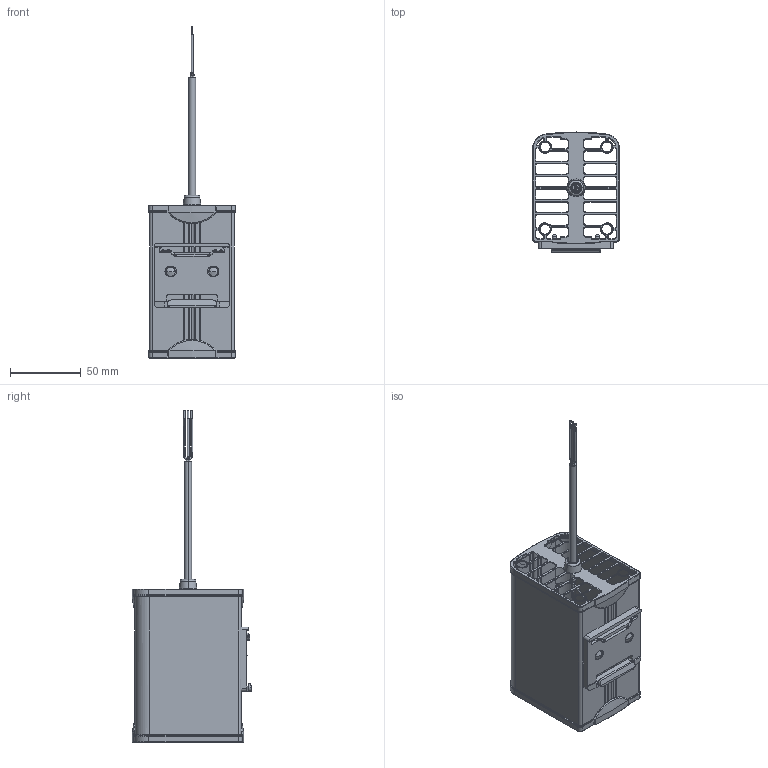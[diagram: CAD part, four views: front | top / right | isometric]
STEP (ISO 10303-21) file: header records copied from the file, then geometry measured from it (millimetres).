
FILE_DESCRIPTION(/* description */ (''),/* implementation_level */ '2;1');
FILE_NAME(/* name */ 'HWP045-60',/* time_stamp */ '2025-11-10T15:31:15+01:00',/* author */ (''),/* organization */ (''),/* preprocessor_version */ 'ST-DEVELOPER v16.5',/* originating_system */ 'Rhino 7.38',/* authorisation */ '');
FILE_SCHEMA (('AUTOMOTIVE_DESIGN'));
Length unit declared in the file: millimetre
Products named in the file (5): Document; InstanceDefinition 04; InstanceDefinition 08; InstanceDefinition 11; InstanceDefinition 13
Assembly tree (5 placements, depth 2):
  Document
    InstanceDefinition 04  x2
    InstanceDefinition 08
    InstanceDefinition 11
    InstanceDefinition 13
Bounding box: 61.57 x 84.86 x 235 mm (x, y, z)
Volume: 9708.6 mm3; surface area: 46418.4 mm2
Topology: 5 solids, 8 shells, 1155 faces, 3157 edges, 2014 vertices
Faces by surface type: cylinder 492, bspline 484, plane 179
Entity records: 63045 total; most frequent: CARTESIAN_POINT 45395, ORIENTED_EDGE 5634, EDGE_CURVE 3125, VERTEX_POINT 2000, EDGE_LOOP 1214, B_SPLINE_CURVE_WITH_KNOTS 1148, ADVANCED_FACE 1142, FACE_OUTER_BOUND 1142
